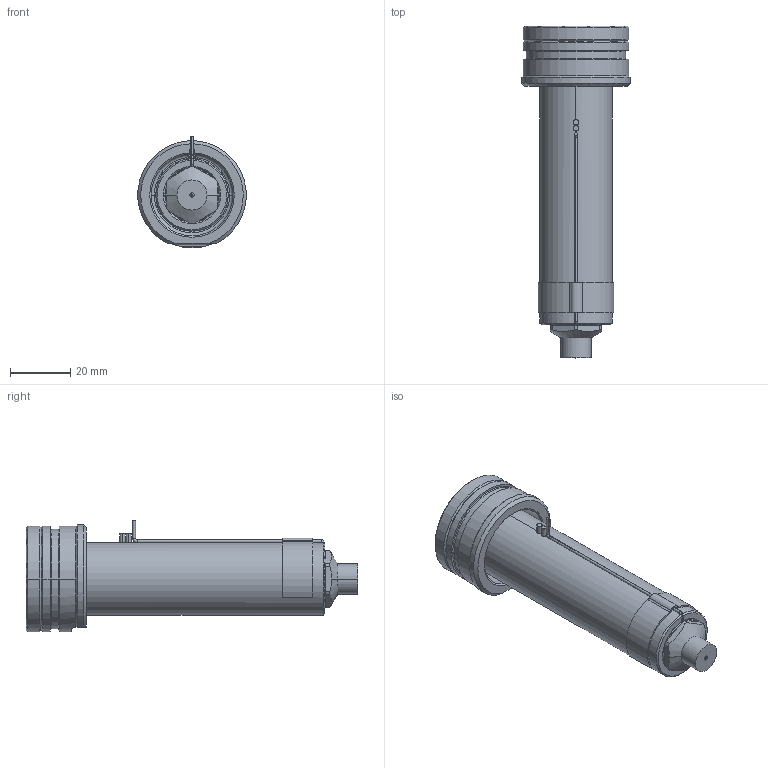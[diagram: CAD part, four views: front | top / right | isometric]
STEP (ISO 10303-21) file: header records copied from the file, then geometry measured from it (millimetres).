
FILE_DESCRIPTION((''),'2;1');
FILE_NAME('EO06_PG-FB_WR_090_SW','2024-02-19T11:27:46',('sundharh'),(''),'CREO PARAMETRIC BY PTC INC, 2023154','CREO PARAMETRIC BY PTC INC, 2023154','');
FILE_SCHEMA(('CONFIG_CONTROL_DESIGN'));
Length unit declared in the file: millimetre
Products named in the file (1): EO06_PG-FB_WR_090_SW
Bounding box: 35.93 x 110 x 37 mm (x, y, z)
Volume: 51860.9 mm3; surface area: 16206.7 mm2
Topology: 2 solids, 2 shells, 210 faces, 564 edges, 346 vertices
Faces by surface type: cylinder 85, plane 55, cone 40, torus 21, bspline 6, sphere 3
Entity records: 7572 total; most frequent: CARTESIAN_POINT 2229, DIRECTION 1177, ORIENTED_EDGE 1112, EDGE_CURVE 556, AXIS2_PLACEMENT_3D 495, VERTEX_POINT 346, CIRCLE 291, EDGE_LOOP 226
